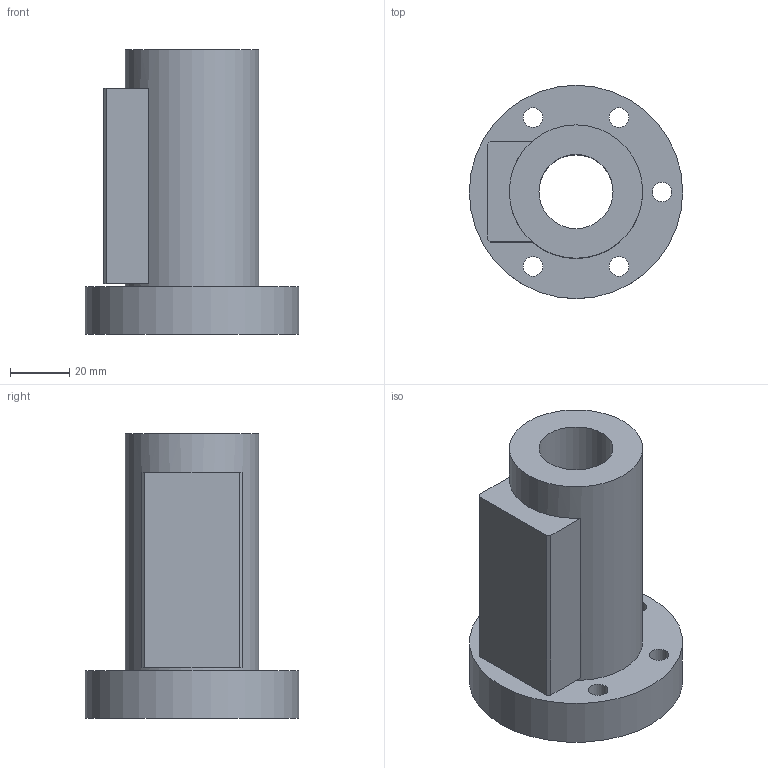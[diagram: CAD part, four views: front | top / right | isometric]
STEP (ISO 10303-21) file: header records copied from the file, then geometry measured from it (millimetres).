
FILE_DESCRIPTION(/* description */ (''),/* implementation_level */ '2;1');
FILE_NAME(/* name */ '25-20B1',/* time_stamp */ '2006-07-31T10:02:25+08:00',/* author */ (''),/* organization */ (''),/* preprocessor_version */ 'ST-DEVELOPER v9',/* originating_system */ 'UGS - NX 4.0',/* authorisation */ '');
FILE_SCHEMA (('CONFIG_CONTROL_DESIGN'));
Length unit declared in the file: millimetre
Products named in the file (1): 25-20B1
Bounding box: 72 x 72 x 96 mm (x, y, z)
Volume: 162639.6 mm3; surface area: 33702.7 mm2
Topology: 1 solids, 1 shells, 28 faces, 61 edges, 42 vertices
Faces by surface type: plane 15, cylinder 13
Full cylindrical faces by diameter (mm): 6.6 x5, 11 x5, 25 x1, 45 x1, 72 x1
Entity records: 794 total; most frequent: DIRECTION 130, CARTESIAN_POINT 111, ORIENTED_EDGE 88, EDGE_LOOP 60, AXIS2_PLACEMENT_3D 57, FACE_BOUND 45, EDGE_CURVE 44, VERTEX_POINT 38
